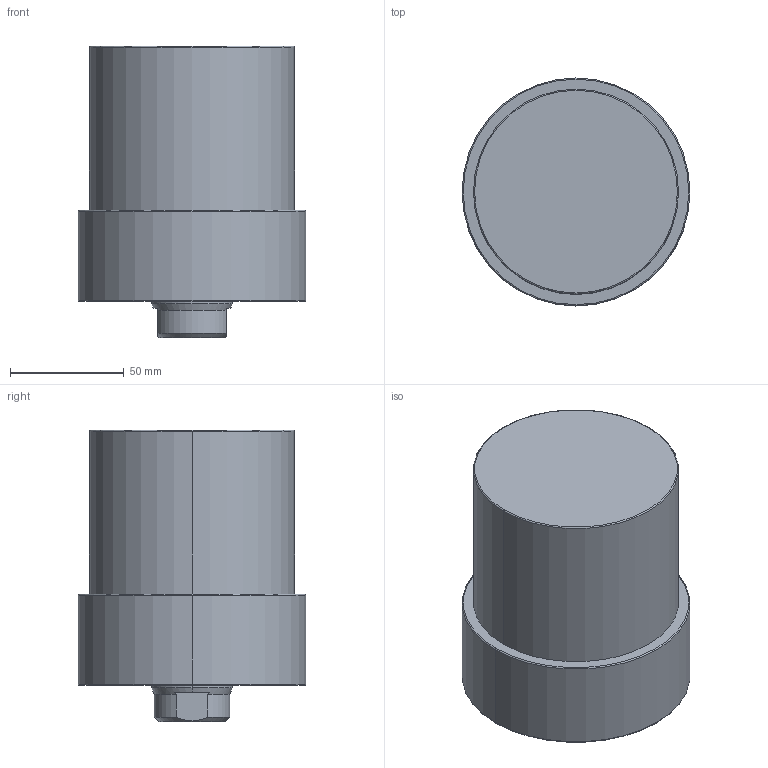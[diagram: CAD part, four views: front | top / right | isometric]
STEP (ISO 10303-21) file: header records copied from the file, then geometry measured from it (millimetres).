
FILE_DESCRIPTION (( 'STEP AP203' ), '1' );
FILE_NAME ('CLLU-090CA-050.STEP', '2020-01-11T00:36:52', ( '' ), ( '' ), 'SwSTEP 2.0', 'SolidWorks 2015', '' );
FILE_SCHEMA (( 'CONFIG_CONTROL_DESIGN' ));
Length unit declared in the file: millimetre
Products named in the file (1): CLLU-090CA-050
Bounding box: 100 x 100 x 128 mm (x, y, z)
Volume: 767753 mm3; surface area: 55207 mm2
Topology: 1 solids, 1 shells, 62 faces, 140 edges, 79 vertices
Faces by surface type: cone 24, cylinder 22, plane 10, torus 6
Entity records: 1767 total; most frequent: DIRECTION 320, CARTESIAN_POINT 316, ORIENTED_EDGE 260, AXIS2_PLACEMENT_3D 135, EDGE_CURVE 130, VERTEX_POINT 79, CIRCLE 72, EDGE_LOOP 71
